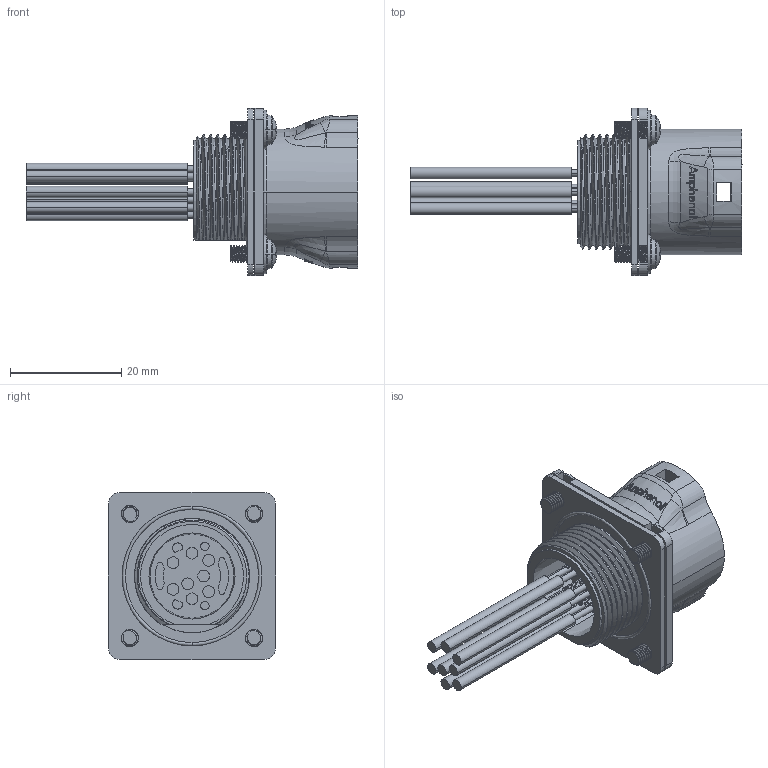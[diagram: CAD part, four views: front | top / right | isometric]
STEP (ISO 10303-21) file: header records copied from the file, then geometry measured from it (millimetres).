
FILE_DESCRIPTION((''),'2;1');
FILE_NAME('CD-08RFMS-RS8CXX','2021-10-14T',('L100003'),(''),'PRO/ENGINEER BY PARAMETRIC TECHNOLOGY CORPORATION, 2017170','PRO/ENGINEER BY PARAMETRIC TECHNOLOGY CORPORATION, 2017170','');
FILE_SCHEMA(('CONFIG_CONTROL_DESIGN'));
Products named in the file (1): CD-08RFMS-RS8CXX
Bounding box: 59.6 x 30 x 30 mm (x, y, z)
Volume: 8340.3 mm3; surface area: 9960.7 mm2
Topology: 1 solids, 1 shells, 1865 faces, 5269 edges, 3450 vertices
Faces by surface type: plane 868, cylinder 583, bspline 238, cone 71, torus 48, extrusion 45, sphere 12
Entity records: 90651 total; most frequent: CARTESIAN_POINT 44772, ORIENTED_EDGE 10538, DIRECTION 8304, EDGE_CURVE 5269, VERTEX_POINT 3450, AXIS2_PLACEMENT_3D 2890, VECTOR 2524, LINE 2479
